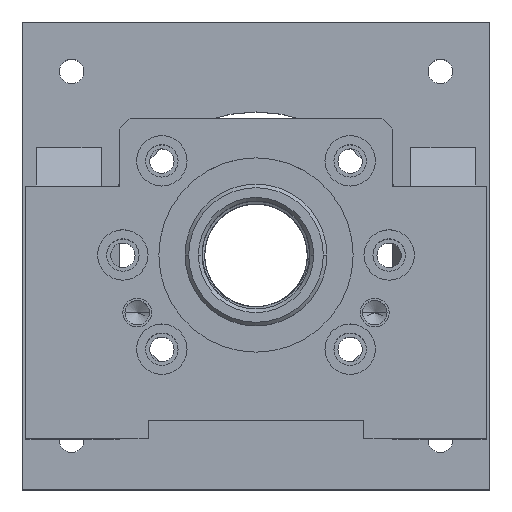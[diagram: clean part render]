
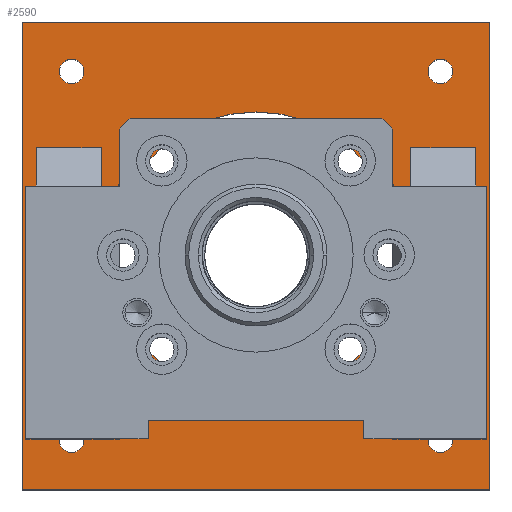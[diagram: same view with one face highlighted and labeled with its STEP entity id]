
A CAD part, top view. The second image highlights one B-rep face of the part: STEP entity #2590.
In plain terms, the highlighted planar face has unit normal (0, 0, 1).
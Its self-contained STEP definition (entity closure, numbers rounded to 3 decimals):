
#369=DIRECTION('',(0.,-1.,0.));
#370=VECTOR('',#369,81.);
#371=CARTESIAN_POINT('',(-43.,30.,20.));
#372=LINE('',#371,#370);
#443=DIRECTION('',(0.,1.,0.));
#444=VECTOR('',#443,130.);
#445=CARTESIAN_POINT('',(-65.,-65.,20.));
#446=LINE('',#445,#444);
#447=DIRECTION('',(1.,0.,0.));
#448=VECTOR('',#447,130.);
#449=CARTESIAN_POINT('',(-65.,65.,20.));
#450=LINE('',#449,#448);
#451=DIRECTION('',(0.,-1.,0.));
#452=VECTOR('',#451,130.);
#453=CARTESIAN_POINT('',(65.,65.,20.));
#454=LINE('',#453,#452);
#455=DIRECTION('',(-1.,0.,0.));
#456=VECTOR('',#455,130.);
#457=CARTESIAN_POINT('',(65.,-65.,20.));
#458=LINE('',#457,#456);
#459=CARTESIAN_POINT('',(0.,0.,20.));
#460=DIRECTION('',(0.,0.,1.));
#461=DIRECTION('',(1.,0.,0.));
#462=AXIS2_PLACEMENT_3D('',#459,#460,#461);
#464=CARTESIAN_POINT('',(0.,0.,20.));
#465=DIRECTION('',(0.,0.,1.));
#466=DIRECTION('',(-1.,0.,0.));
#467=AXIS2_PLACEMENT_3D('',#464,#465,#466);
#469=DIRECTION('',(1.,0.,0.));
#470=VECTOR('',#469,6.359);
#471=CARTESIAN_POINT('',(-61.,-51.,20.));
#472=LINE('',#471,#470);
#473=CARTESIAN_POINT('',(-51.25,-51.25,20.));
#474=DIRECTION('',(0.,0.,1.));
#475=DIRECTION('',(-0.997,0.074,0.));
#476=AXIS2_PLACEMENT_3D('',#473,#474,#475);
#478=CARTESIAN_POINT('',(-51.25,-51.25,20.));
#479=DIRECTION('',(0.,0.,1.));
#480=DIRECTION('',(-1.,0.,0.));
#481=AXIS2_PLACEMENT_3D('',#478,#479,#480);
#483=CARTESIAN_POINT('',(-51.25,-51.25,20.));
#484=DIRECTION('',(0.,0.,1.));
#485=DIRECTION('',(1.,0.,0.));
#486=AXIS2_PLACEMENT_3D('',#483,#484,#485);
#488=DIRECTION('',(1.,0.,0.));
#489=VECTOR('',#488,4.859);
#490=CARTESIAN_POINT('',(-47.859,-51.,20.));
#491=LINE('',#490,#489);
#492=DIRECTION('',(1.,0.,0.));
#493=VECTOR('',#492,4.859);
#494=CARTESIAN_POINT('',(43.,-51.,20.));
#495=LINE('',#494,#493);
#496=CARTESIAN_POINT('',(51.25,-51.25,20.));
#497=DIRECTION('',(0.,0.,1.));
#498=DIRECTION('',(-0.997,0.074,0.));
#499=AXIS2_PLACEMENT_3D('',#496,#497,#498);
#501=CARTESIAN_POINT('',(51.25,-51.25,20.));
#502=DIRECTION('',(0.,0.,1.));
#503=DIRECTION('',(-1.,0.,0.));
#504=AXIS2_PLACEMENT_3D('',#501,#502,#503);
#506=CARTESIAN_POINT('',(51.25,-51.25,20.));
#507=DIRECTION('',(0.,0.,1.));
#508=DIRECTION('',(1.,0.,0.));
#509=AXIS2_PLACEMENT_3D('',#506,#507,#508);
#511=DIRECTION('',(1.,0.,0.));
#512=VECTOR('',#511,6.359);
#513=CARTESIAN_POINT('',(54.641,-51.,20.));
#514=LINE('',#513,#512);
#515=CARTESIAN_POINT('',(-51.25,51.25,20.));
#516=DIRECTION('',(0.,0.,1.));
#517=DIRECTION('',(-1.,0.,0.));
#518=AXIS2_PLACEMENT_3D('',#515,#516,#517);
#520=CARTESIAN_POINT('',(-51.25,51.25,20.));
#521=DIRECTION('',(0.,0.,1.));
#522=DIRECTION('',(1.,0.,0.));
#523=AXIS2_PLACEMENT_3D('',#520,#521,#522);
#525=CARTESIAN_POINT('',(51.25,51.25,20.));
#526=DIRECTION('',(0.,0.,1.));
#527=DIRECTION('',(-1.,0.,0.));
#528=AXIS2_PLACEMENT_3D('',#525,#526,#527);
#530=CARTESIAN_POINT('',(51.25,51.25,20.));
#531=DIRECTION('',(0.,0.,1.));
#532=DIRECTION('',(1.,0.,0.));
#533=AXIS2_PLACEMENT_3D('',#530,#531,#532);
#766=DIRECTION('',(0.,1.,0.));
#767=VECTOR('',#766,81.);
#768=CARTESIAN_POINT('',(43.,-51.,20.));
#769=LINE('',#768,#767);
#786=DIRECTION('',(1.,0.,0.));
#787=VECTOR('',#786,18.);
#788=CARTESIAN_POINT('',(43.,30.,20.));
#789=LINE('',#788,#787);
#794=DIRECTION('',(0.,-1.,0.));
#795=VECTOR('',#794,81.);
#796=CARTESIAN_POINT('',(61.,30.,20.));
#797=LINE('',#796,#795);
#1100=DIRECTION('',(1.,0.,0.));
#1101=VECTOR('',#1100,18.);
#1102=CARTESIAN_POINT('',(-61.,30.,20.));
#1103=LINE('',#1102,#1101);
#1108=DIRECTION('',(0.,1.,0.));
#1109=VECTOR('',#1108,81.);
#1110=CARTESIAN_POINT('',(-61.,-51.,20.));
#1111=LINE('',#1110,#1109);
#1763=CARTESIAN_POINT('',(-43.,30.,20.));
#1764=VERTEX_POINT('',#1763);
#1765=CARTESIAN_POINT('',(-43.,-51.,20.));
#1766=VERTEX_POINT('',#1765);
#1771=CARTESIAN_POINT('',(-47.859,-51.,20.));
#1772=VERTEX_POINT('',#1771);
#1773=CARTESIAN_POINT('',(-54.641,-50.999,20.));
#1774=VERTEX_POINT('',#1773);
#1775=CARTESIAN_POINT('',(-61.,-51.,20.));
#1776=VERTEX_POINT('',#1775);
#1793=CARTESIAN_POINT('',(-65.,-65.,20.));
#1794=CARTESIAN_POINT('',(-65.,65.,20.));
#1795=VERTEX_POINT('',#1793);
#1796=VERTEX_POINT('',#1794);
#1797=CARTESIAN_POINT('',(65.,65.,20.));
#1798=VERTEX_POINT('',#1797);
#1799=CARTESIAN_POINT('',(65.,-65.,20.));
#1800=VERTEX_POINT('',#1799);
#1801=CARTESIAN_POINT('',(40.,0.,20.));
#1802=CARTESIAN_POINT('',(-40.,0.,20.));
#1803=VERTEX_POINT('',#1801);
#1804=VERTEX_POINT('',#1802);
#1805=CARTESIAN_POINT('',(-61.,30.,20.));
#1806=VERTEX_POINT('',#1805);
#1807=CARTESIAN_POINT('',(-54.65,-51.25,20.));
#1808=VERTEX_POINT('',#1807);
#1809=CARTESIAN_POINT('',(-47.85,-51.25,20.));
#1810=VERTEX_POINT('',#1809);
#1811=CARTESIAN_POINT('',(43.,30.,20.));
#1812=CARTESIAN_POINT('',(61.,30.,20.));
#1813=VERTEX_POINT('',#1811);
#1814=VERTEX_POINT('',#1812);
#1815=CARTESIAN_POINT('',(43.,-51.,20.));
#1816=VERTEX_POINT('',#1815);
#1817=CARTESIAN_POINT('',(47.859,-50.999,20.));
#1818=VERTEX_POINT('',#1817);
#1819=CARTESIAN_POINT('',(47.85,-51.25,20.));
#1820=VERTEX_POINT('',#1819);
#1821=CARTESIAN_POINT('',(54.65,-51.25,20.));
#1822=VERTEX_POINT('',#1821);
#1823=CARTESIAN_POINT('',(54.641,-51.,20.));
#1824=VERTEX_POINT('',#1823);
#1825=CARTESIAN_POINT('',(61.,-51.,20.));
#1826=VERTEX_POINT('',#1825);
#1827=CARTESIAN_POINT('',(-54.65,51.25,20.));
#1828=CARTESIAN_POINT('',(-47.85,51.25,20.));
#1829=VERTEX_POINT('',#1827);
#1830=VERTEX_POINT('',#1828);
#1831=CARTESIAN_POINT('',(47.85,51.25,20.));
#1832=CARTESIAN_POINT('',(54.65,51.25,20.));
#1833=VERTEX_POINT('',#1831);
#1834=VERTEX_POINT('',#1832);
#2524=CARTESIAN_POINT('',(0.,0.,20.));
#2525=DIRECTION('',(0.,0.,1.));
#2526=DIRECTION('',(1.,0.,0.));
#2527=AXIS2_PLACEMENT_3D('',#2524,#2525,#2526);
#2528=PLANE('',#2527);
#2530=ORIENTED_EDGE('',*,*,#2529,.T.);
#2532=ORIENTED_EDGE('',*,*,#2531,.T.);
#2534=ORIENTED_EDGE('',*,*,#2533,.T.);
#2536=ORIENTED_EDGE('',*,*,#2535,.T.);
#2537=EDGE_LOOP('',(#2530,#2532,#2534,#2536));
#2538=FACE_OUTER_BOUND('',#2537,.F.);
#2540=ORIENTED_EDGE('',*,*,#2539,.T.);
#2542=ORIENTED_EDGE('',*,*,#2541,.T.);
#2543=EDGE_LOOP('',(#2540,#2542));
#2544=FACE_BOUND('',#2543,.F.);
#2546=ORIENTED_EDGE('',*,*,#2545,.F.);
#2548=ORIENTED_EDGE('',*,*,#2547,.F.);
#2549=ORIENTED_EDGE('',*,*,#2486,.T.);
#2551=ORIENTED_EDGE('',*,*,#2550,.T.);
#2553=ORIENTED_EDGE('',*,*,#2552,.T.);
#2555=ORIENTED_EDGE('',*,*,#2554,.T.);
#2556=ORIENTED_EDGE('',*,*,#2482,.T.);
#2557=ORIENTED_EDGE('',*,*,#2423,.F.);
#2558=EDGE_LOOP('',(#2546,#2548,#2549,#2551,#2553,#2555,#2556,#2557));
#2559=FACE_BOUND('',#2558,.F.);
#2561=ORIENTED_EDGE('',*,*,#2560,.F.);
#2563=ORIENTED_EDGE('',*,*,#2562,.F.);
#2565=ORIENTED_EDGE('',*,*,#2564,.T.);
#2567=ORIENTED_EDGE('',*,*,#2566,.T.);
#2569=ORIENTED_EDGE('',*,*,#2568,.T.);
#2571=ORIENTED_EDGE('',*,*,#2570,.T.);
#2573=ORIENTED_EDGE('',*,*,#2572,.T.);
#2575=ORIENTED_EDGE('',*,*,#2574,.F.);
#2576=EDGE_LOOP('',(#2561,#2563,#2565,#2567,#2569,#2571,#2573,#2575));
#2577=FACE_BOUND('',#2576,.F.);
#2579=ORIENTED_EDGE('',*,*,#2578,.T.);
#2581=ORIENTED_EDGE('',*,*,#2580,.T.);
#2582=EDGE_LOOP('',(#2579,#2581));
#2583=FACE_BOUND('',#2582,.F.);
#2585=ORIENTED_EDGE('',*,*,#2584,.T.);
#2587=ORIENTED_EDGE('',*,*,#2586,.T.);
#2588=EDGE_LOOP('',(#2585,#2587));
#2589=FACE_BOUND('',#2588,.F.);
#463=CIRCLE('',#462,40.);
#468=CIRCLE('',#467,40.);
#477=CIRCLE('',#476,3.4);
#482=CIRCLE('',#481,3.4);
#487=CIRCLE('',#486,3.4);
#500=CIRCLE('',#499,3.4);
#505=CIRCLE('',#504,3.4);
#510=CIRCLE('',#509,3.4);
#519=CIRCLE('',#518,3.4);
#524=CIRCLE('',#523,3.4);
#529=CIRCLE('',#528,3.4);
#534=CIRCLE('',#533,3.4);
#2423=EDGE_CURVE('',#1764,#1766,#372,.T.);
#2482=EDGE_CURVE('',#1772,#1766,#491,.T.);
#2486=EDGE_CURVE('',#1776,#1774,#472,.T.);
#2529=EDGE_CURVE('',#1795,#1796,#446,.T.);
#2531=EDGE_CURVE('',#1796,#1798,#450,.T.);
#2533=EDGE_CURVE('',#1798,#1800,#454,.T.);
#2535=EDGE_CURVE('',#1800,#1795,#458,.T.);
#2539=EDGE_CURVE('',#1803,#1804,#463,.T.);
#2541=EDGE_CURVE('',#1804,#1803,#468,.T.);
#2545=EDGE_CURVE('',#1806,#1764,#1103,.T.);
#2547=EDGE_CURVE('',#1776,#1806,#1111,.T.);
#2550=EDGE_CURVE('',#1774,#1808,#477,.T.);
#2552=EDGE_CURVE('',#1808,#1810,#482,.T.);
#2554=EDGE_CURVE('',#1810,#1772,#487,.T.);
#2560=EDGE_CURVE('',#1813,#1814,#789,.T.);
#2562=EDGE_CURVE('',#1816,#1813,#769,.T.);
#2564=EDGE_CURVE('',#1816,#1818,#495,.T.);
#2566=EDGE_CURVE('',#1818,#1820,#500,.T.);
#2568=EDGE_CURVE('',#1820,#1822,#505,.T.);
#2570=EDGE_CURVE('',#1822,#1824,#510,.T.);
#2572=EDGE_CURVE('',#1824,#1826,#514,.T.);
#2574=EDGE_CURVE('',#1814,#1826,#797,.T.);
#2578=EDGE_CURVE('',#1829,#1830,#519,.T.);
#2580=EDGE_CURVE('',#1830,#1829,#524,.T.);
#2584=EDGE_CURVE('',#1833,#1834,#529,.T.);
#2586=EDGE_CURVE('',#1834,#1833,#534,.T.);
#2590=ADVANCED_FACE('',(#2538,#2544,#2559,#2577,#2583,#2589),#2528,.T.);
